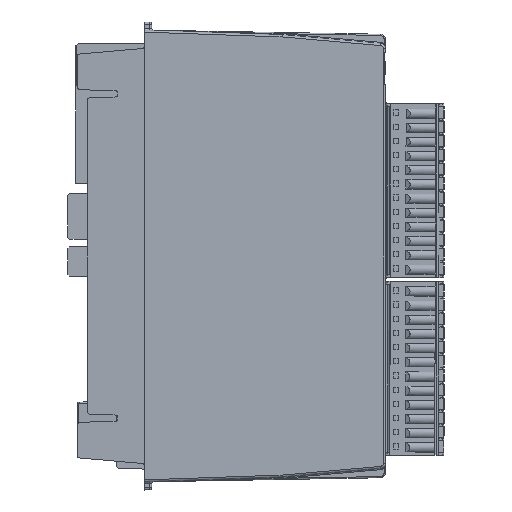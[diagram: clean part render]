
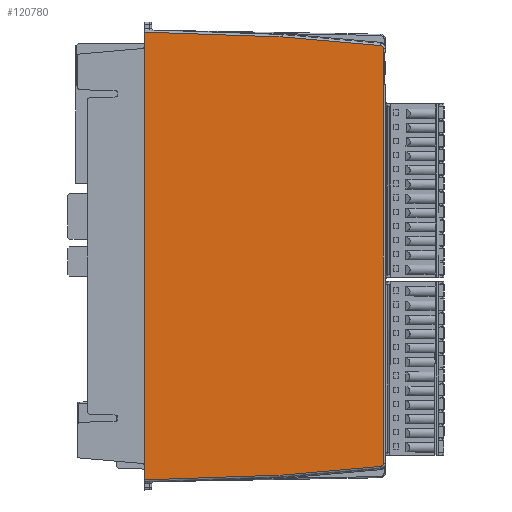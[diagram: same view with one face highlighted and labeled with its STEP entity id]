
A CAD part, left-side view. The second image highlights one B-rep face of the part: STEP entity #120780.
In plain terms, the highlighted planar face has unit normal (-1, -0.018, 0).
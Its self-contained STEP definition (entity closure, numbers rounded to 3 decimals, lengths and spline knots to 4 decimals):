
#983=ELLIPSE('',#128945,0.0315,0.0315);
#984=ELLIPSE('',#128946,0.0315,0.0315);
#5748=PLANE('',#128944);
#10811=FACE_OUTER_BOUND('',#17352,.T.);
#17352=EDGE_LOOP('',(#94545,#94546,#94547,#94548,#94549,#94550,#94551,#94552,
#94553,#94554));
#31884=LINE('',#188971,#44327);
#31885=LINE('',#188973,#44328);
#31886=LINE('',#188975,#44329);
#31887=LINE('',#188977,#44330);
#31888=LINE('',#188979,#44331);
#31889=LINE('',#188983,#44332);
#31890=LINE('',#188987,#44333);
#31891=LINE('',#188988,#44334);
#44327=VECTOR('',#150130,39.3701);
#44328=VECTOR('',#150131,39.3701);
#44329=VECTOR('',#150132,39.3701);
#44330=VECTOR('',#150133,39.3701);
#44331=VECTOR('',#150134,39.3701);
#44332=VECTOR('',#150137,39.3701);
#44333=VECTOR('',#150140,39.3701);
#44334=VECTOR('',#150141,39.3701);
#55636=VERTEX_POINT('',#188969);
#55637=VERTEX_POINT('',#188970);
#55638=VERTEX_POINT('',#188972);
#55639=VERTEX_POINT('',#188974);
#55640=VERTEX_POINT('',#188976);
#55641=VERTEX_POINT('',#188978);
#55642=VERTEX_POINT('',#188980);
#55643=VERTEX_POINT('',#188982);
#55644=VERTEX_POINT('',#188984);
#55645=VERTEX_POINT('',#188986);
#69523=EDGE_CURVE('',#55636,#55637,#31884,.T.);
#69524=EDGE_CURVE('',#55638,#55637,#31885,.T.);
#69525=EDGE_CURVE('',#55638,#55639,#31886,.T.);
#69526=EDGE_CURVE('',#55639,#55640,#31887,.T.);
#69527=EDGE_CURVE('',#55640,#55641,#31888,.T.);
#69528=EDGE_CURVE('',#55641,#55642,#983,.T.);
#69529=EDGE_CURVE('',#55642,#55643,#31889,.T.);
#69530=EDGE_CURVE('',#55643,#55644,#984,.T.);
#69531=EDGE_CURVE('',#55644,#55645,#31890,.T.);
#69532=EDGE_CURVE('',#55645,#55636,#31891,.T.);
#94545=ORIENTED_EDGE('',*,*,#69523,.T.);
#94546=ORIENTED_EDGE('',*,*,#69524,.F.);
#94547=ORIENTED_EDGE('',*,*,#69525,.T.);
#94548=ORIENTED_EDGE('',*,*,#69526,.T.);
#94549=ORIENTED_EDGE('',*,*,#69527,.T.);
#94550=ORIENTED_EDGE('',*,*,#69528,.T.);
#94551=ORIENTED_EDGE('',*,*,#69529,.T.);
#94552=ORIENTED_EDGE('',*,*,#69530,.T.);
#94553=ORIENTED_EDGE('',*,*,#69531,.T.);
#94554=ORIENTED_EDGE('',*,*,#69532,.T.);
#120780=ADVANCED_FACE('',(#10811),#5748,.T.);
#128944=AXIS2_PLACEMENT_3D('',#188968,#150128,#150129);
#128945=AXIS2_PLACEMENT_3D('',#188981,#150135,#150136);
#128946=AXIS2_PLACEMENT_3D('',#188985,#150138,#150139);
#150128=DIRECTION('center_axis',(-1.,-0.017,
0.));
#150129=DIRECTION('ref_axis',(-0.017,1.,0.));
#150130=DIRECTION('',(0.,0.,-1.));
#150131=DIRECTION('',(0.,0.,1.));
#150132=DIRECTION('',(0.,0.,-1.));
#150133=DIRECTION('',(0.017,-0.999,0.035));
#150134=DIRECTION('',(0.017,-0.996,0.087));
#150135=DIRECTION('center_axis',(-1.,-0.017,
0.));
#150136=DIRECTION('ref_axis',(0.017,-1.,0.));
#150137=DIRECTION('',(0.,0.,1.));
#150138=DIRECTION('center_axis',(-1.,-0.017,
0.));
#150139=DIRECTION('ref_axis',(0.017,-1.,0.));
#150140=DIRECTION('',(-0.017,0.996,0.087));
#150141=DIRECTION('',(-0.017,0.999,0.035));
#188968=CARTESIAN_POINT('Origin',(-0.0296,-0.489,
-2.0669));
#188969=CARTESIAN_POINT('',(-0.0227,-0.8827,0.1083));
#188970=CARTESIAN_POINT('',(-0.0227,-0.8827,-0.0312));
#188971=CARTESIAN_POINT('',(-0.0227,-0.8827,0.128));
#188972=CARTESIAN_POINT('',(-0.0227,-0.8827,-4.1027));
#188973=CARTESIAN_POINT('',(-0.0227,-0.8827,-7.5932));
#188974=CARTESIAN_POINT('',(-0.0227,-0.8827,-4.2421));
#188975=CARTESIAN_POINT('',(-0.0227,-0.8827,0.128));
#188976=CARTESIAN_POINT('',(0.0007,-2.2205,-4.1954));
#188977=CARTESIAN_POINT('',(-0.0282,-0.5654,-4.2532));
#188978=CARTESIAN_POINT('',(0.0174,-3.1772,-4.1117));
#188979=CARTESIAN_POINT('',(-0.0261,-0.6869,-4.3296));
#188980=CARTESIAN_POINT('',(0.0179,-3.2059,-4.0803));
#188981=CARTESIAN_POINT('Origin',(0.0173,-3.1744,
-4.0803));
#188982=CARTESIAN_POINT('',(0.0179,-3.2059,-0.0535));
#188983=CARTESIAN_POINT('',(0.0179,-3.2059,-0.0535));
#188984=CARTESIAN_POINT('',(0.0174,-3.1772,-0.0221));
#188985=CARTESIAN_POINT('Origin',(0.0173,-3.1744,
-0.0535));
#188986=CARTESIAN_POINT('',(0.0007,-2.2205,0.0616));
#188987=CARTESIAN_POINT('',(-0.0261,-0.6869,0.1957));
#188988=CARTESIAN_POINT('',(-0.0282,-0.5654,0.1194));
